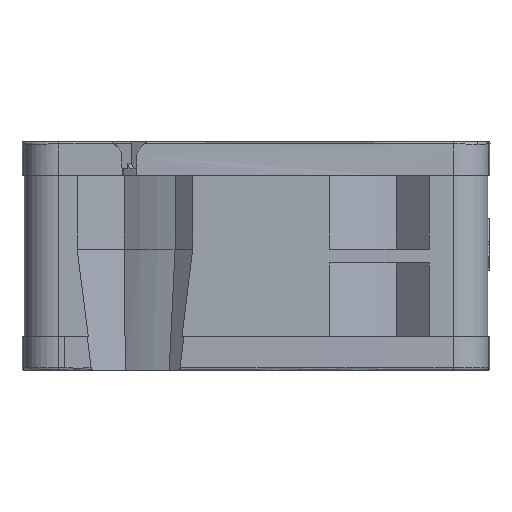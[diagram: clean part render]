
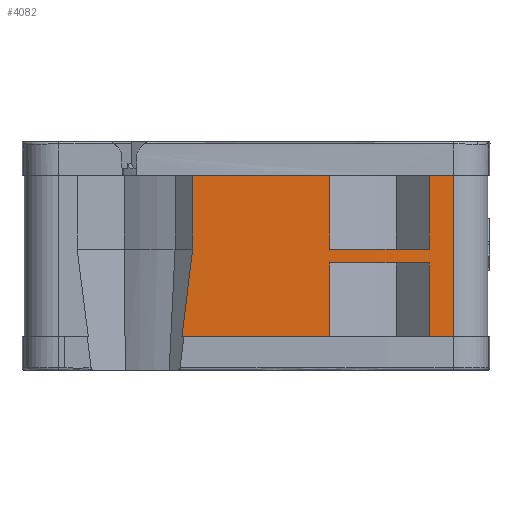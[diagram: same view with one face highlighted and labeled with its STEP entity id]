
A CAD part, left-side view. The second image highlights one B-rep face of the part: STEP entity #4082.
In plain terms, the highlighted planar face has unit normal (-1, 0, 0).
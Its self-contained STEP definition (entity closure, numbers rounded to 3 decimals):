
#744=DIRECTION('',(0.,0.123,-0.992));
#745=VECTOR('',#744,7.579);
#746=CARTESIAN_POINT('',(-20.1,5.488,0.6));
#747=LINE('',#746,#745);
#1110=CARTESIAN_POINT('',(-20.1,6.419,-6.922));
#1111=CARTESIAN_POINT('',(-20.1,6.419,-6.948));
#1112=CARTESIAN_POINT('',(-20.1,6.419,
-6.974));
#1113=CARTESIAN_POINT('',(-20.1,6.419,-7.));
#1120=DIRECTION('',(0.,0.,1.));
#1121=VECTOR('',#1120,6.4);
#1122=CARTESIAN_POINT('',(-20.1,5.488,0.6));
#1123=LINE('',#1122,#1121);
#1124=DIRECTION('',(0.,-1.,0.));
#1125=VECTOR('',#1124,11.907);
#1126=CARTESIAN_POINT('',(-20.1,5.488,7.));
#1127=LINE('',#1126,#1125);
#1128=DIRECTION('',(0.,-1.,0.));
#1129=VECTOR('',#1128,8.59);
#1130=CARTESIAN_POINT('',(-20.1,-6.419,0.6));
#1131=LINE('',#1130,#1129);
#1132=DIRECTION('',(0.,0.,1.));
#1133=VECTOR('',#1132,6.4);
#1134=CARTESIAN_POINT('',(-20.1,-15.009,0.6));
#1135=LINE('',#1134,#1133);
#1136=DIRECTION('',(0.,-1.,0.));
#1137=VECTOR('',#1136,2.091);
#1138=CARTESIAN_POINT('',(-20.1,-15.009,7.));
#1139=LINE('',#1138,#1137);
#1140=DIRECTION('',(0.,1.,0.));
#1141=VECTOR('',#1140,2.091);
#1142=CARTESIAN_POINT('',(-20.1,-17.1,-7.));
#1143=LINE('',#1142,#1141);
#1144=DIRECTION('',(0.,0.,1.));
#1145=VECTOR('',#1144,6.4);
#1146=CARTESIAN_POINT('',(-20.1,-15.009,-7.));
#1147=LINE('',#1146,#1145);
#1148=DIRECTION('',(0.,1.,0.));
#1149=VECTOR('',#1148,8.59);
#1150=CARTESIAN_POINT('',(-20.1,-15.009,-0.6));
#1151=LINE('',#1150,#1149);
#1152=DIRECTION('',(0.,1.,0.));
#1153=VECTOR('',#1152,12.838);
#1154=CARTESIAN_POINT('',(-20.1,-6.419,-7.));
#1155=LINE('',#1154,#1153);
#1160=DIRECTION('',(0.,0.,1.));
#1161=VECTOR('',#1160,6.4);
#1162=CARTESIAN_POINT('',(-20.1,-6.419,0.6));
#1163=LINE('',#1162,#1161);
#1177=DIRECTION('',(0.,0.,1.));
#1178=VECTOR('',#1177,14.);
#1179=CARTESIAN_POINT('',(-20.1,-17.1,-7.));
#1180=LINE('',#1179,#1178);
#1494=DIRECTION('',(0.,0.,1.));
#1495=VECTOR('',#1494,6.4);
#1496=CARTESIAN_POINT('',(-20.1,-6.419,-7.));
#1497=LINE('',#1496,#1495);
#2410=CARTESIAN_POINT('',(-20.1,-17.1,7.));
#2411=VERTEX_POINT('',#2410);
#2412=CARTESIAN_POINT('',(-20.1,-15.009,7.));
#2413=VERTEX_POINT('',#2412);
#2416=CARTESIAN_POINT('',(-20.1,-6.419,7.));
#2417=VERTEX_POINT('',#2416);
#2418=CARTESIAN_POINT('',(-20.1,5.488,7.));
#2419=VERTEX_POINT('',#2418);
#2612=CARTESIAN_POINT('',(-20.1,5.488,0.6));
#2614=VERTEX_POINT('',#2612);
#2615=CARTESIAN_POINT('',(-20.1,6.419,-6.922));
#2616=VERTEX_POINT('',#2615);
#2649=CARTESIAN_POINT('',(-20.1,6.419,-7.));
#2650=VERTEX_POINT('',#2649);
#2651=CARTESIAN_POINT('',(-20.1,-6.419,-7.));
#2652=VERTEX_POINT('',#2651);
#2655=CARTESIAN_POINT('',(-20.1,-15.009,-7.));
#2656=VERTEX_POINT('',#2655);
#2657=CARTESIAN_POINT('',(-20.1,-17.1,-7.));
#2658=VERTEX_POINT('',#2657);
#2717=CARTESIAN_POINT('',(-20.1,-6.419,0.6));
#2718=VERTEX_POINT('',#2717);
#2719=CARTESIAN_POINT('',(-20.1,-15.009,0.6));
#2720=VERTEX_POINT('',#2719);
#2721=CARTESIAN_POINT('',(-20.1,-15.009,-0.6));
#2722=VERTEX_POINT('',#2721);
#2723=CARTESIAN_POINT('',(-20.1,-6.419,-0.6));
#2724=VERTEX_POINT('',#2723);
#4054=CARTESIAN_POINT('',(-20.1,0.,7.));
#4055=DIRECTION('',(1.,0.,0.));
#4056=DIRECTION('',(0.,0.,-1.));
#4057=AXIS2_PLACEMENT_3D('',#4054,#4055,#4056);
#4058=PLANE('',#4057);
#4059=ORIENTED_EDGE('',*,*,#3619,.T.);
#4060=ORIENTED_EDGE('',*,*,#3018,.T.);
#4062=ORIENTED_EDGE('',*,*,#4061,.F.);
#4064=ORIENTED_EDGE('',*,*,#4063,.T.);
#4066=ORIENTED_EDGE('',*,*,#4065,.T.);
#4067=ORIENTED_EDGE('',*,*,#3012,.T.);
#4069=ORIENTED_EDGE('',*,*,#4068,.F.);
#4070=ORIENTED_EDGE('',*,*,#3731,.T.);
#4072=ORIENTED_EDGE('',*,*,#4071,.T.);
#4074=ORIENTED_EDGE('',*,*,#4073,.T.);
#4076=ORIENTED_EDGE('',*,*,#4075,.F.);
#4077=ORIENTED_EDGE('',*,*,#3725,.T.);
#4078=ORIENTED_EDGE('',*,*,#4048,.F.);
#4079=ORIENTED_EDGE('',*,*,#3595,.F.);
#4080=EDGE_LOOP('',(#4059,#4060,#4062,#4064,#4066,#4067,#4069,#4070,#4072,#4074,
#4076,#4077,#4078,#4079));
#4081=FACE_OUTER_BOUND('',#4080,.F.);
#1114=B_SPLINE_CURVE_WITH_KNOTS('',3,(#1110,#1111,#1112,#1113),.UNSPECIFIED.,
.F.,.F.,(4,4),(0.,1.),.UNSPECIFIED.);
#3012=EDGE_CURVE('',#2413,#2411,#1139,.T.);
#3018=EDGE_CURVE('',#2419,#2417,#1127,.T.);
#3595=EDGE_CURVE('',#2614,#2616,#747,.T.);
#3619=EDGE_CURVE('',#2614,#2419,#1123,.T.);
#3725=EDGE_CURVE('',#2652,#2650,#1155,.T.);
#3731=EDGE_CURVE('',#2658,#2656,#1143,.T.);
#4048=EDGE_CURVE('',#2616,#2650,#1114,.T.);
#4061=EDGE_CURVE('',#2718,#2417,#1163,.T.);
#4063=EDGE_CURVE('',#2718,#2720,#1131,.T.);
#4065=EDGE_CURVE('',#2720,#2413,#1135,.T.);
#4068=EDGE_CURVE('',#2658,#2411,#1180,.T.);
#4071=EDGE_CURVE('',#2656,#2722,#1147,.T.);
#4073=EDGE_CURVE('',#2722,#2724,#1151,.T.);
#4075=EDGE_CURVE('',#2652,#2724,#1497,.T.);
#4082=ADVANCED_FACE('',(#4081),#4058,.F.);
